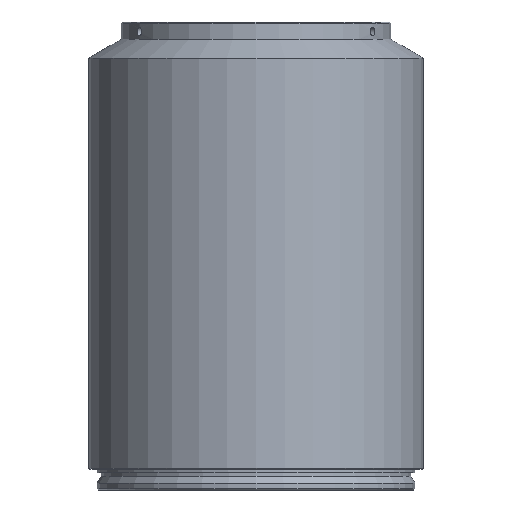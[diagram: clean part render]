
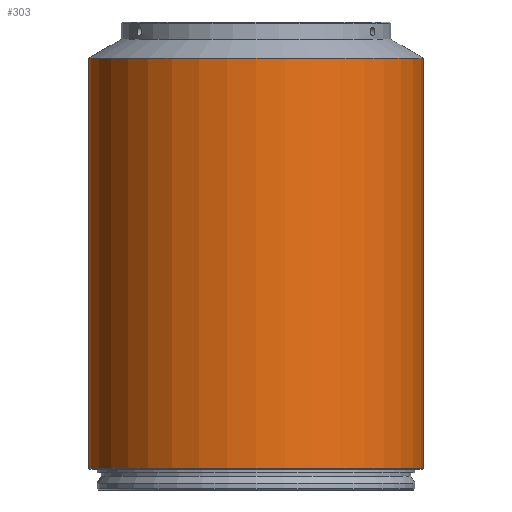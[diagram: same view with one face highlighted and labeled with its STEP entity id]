
A CAD part, front view. The second image highlights one B-rep face of the part: STEP entity #303.
In plain terms, the highlighted cylindrical face has radius 48.5 mm (diameter 97 mm), a partial arc.
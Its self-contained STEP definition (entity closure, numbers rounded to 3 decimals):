
#10 = EDGE_CURVE ( 'NONE', #1048, #993, #373, .T. ) ;
#32 = AXIS2_PLACEMENT_3D ( 'NONE', #310, #747, #1061 ) ;
#61 = CARTESIAN_POINT ( 'NONE',  ( -48.5, 0., 175.49 ) ) ;
#63 = CIRCLE ( 'NONE', #287, 48.5 ) ;
#126 = CARTESIAN_POINT ( 'NONE',  ( -48.5, 0., 179.046 ) ) ;
#165 = DIRECTION ( 'NONE',  ( 1., 0., 0. ) ) ;
#173 = CARTESIAN_POINT ( 'NONE',  ( -48.5, 0., 56.8 ) ) ;
#185 = EDGE_CURVE ( 'NONE', #1048, #609, #1211, .T. ) ;
#287 = AXIS2_PLACEMENT_3D ( 'NONE', #376, #1137, #593 ) ;
#303 = ADVANCED_FACE ( 'NONE', ( #592 ), #492, .T. ) ;
#310 = CARTESIAN_POINT ( 'NONE',  ( 0., 0., 56.8 ) ) ;
#312 = VERTEX_POINT ( 'NONE', #930 ) ;
#368 = DIRECTION ( 'NONE',  ( 0., 0., 1. ) ) ;
#373 = CIRCLE ( 'NONE', #32, 48.5 ) ;
#376 = CARTESIAN_POINT ( 'NONE',  ( 0., 0., 175.49 ) ) ;
#492 = CYLINDRICAL_SURFACE ( 'NONE', #1173, 48.5 ) ;
#542 = ORIENTED_EDGE ( 'NONE', *, *, #10, .T. ) ;
#557 = VECTOR ( 'NONE', #788, 1000. ) ;
#592 = FACE_OUTER_BOUND ( 'NONE', #1017, .T. ) ;
#593 = DIRECTION ( 'NONE',  ( 1., 0., 0. ) ) ;
#609 = VERTEX_POINT ( 'NONE', #61 ) ;
#613 = ORIENTED_EDGE ( 'NONE', *, *, #1335, .F. ) ;
#681 = CARTESIAN_POINT ( 'NONE',  ( 48.5, 0., 179.046 ) ) ;
#747 = DIRECTION ( 'NONE',  ( 0., 0., 1. ) ) ;
#788 = DIRECTION ( 'NONE',  ( 0., 0., 1. ) ) ;
#800 = ORIENTED_EDGE ( 'NONE', *, *, #185, .F. ) ;
#909 = CARTESIAN_POINT ( 'NONE',  ( 48.5, 0., 56.8 ) ) ;
#930 = CARTESIAN_POINT ( 'NONE',  ( 48.5, 0., 175.49 ) ) ;
#993 = VERTEX_POINT ( 'NONE', #909 ) ;
#1017 = EDGE_LOOP ( 'NONE', ( #800, #542, #1139, #613 ) ) ;
#1048 = VERTEX_POINT ( 'NONE', #173 ) ;
#1061 = DIRECTION ( 'NONE',  ( 1., 0., 0. ) ) ;
#1094 = LINE ( 'NONE', #681, #1148 ) ;
#1115 = DIRECTION ( 'NONE',  ( 0., 0., 1. ) ) ;
#1137 = DIRECTION ( 'NONE',  ( 0., 0., 1. ) ) ;
#1139 = ORIENTED_EDGE ( 'NONE', *, *, #1205, .T. ) ;
#1148 = VECTOR ( 'NONE', #1115, 1000. ) ;
#1173 = AXIS2_PLACEMENT_3D ( 'NONE', #1350, #368, #165 ) ;
#1205 = EDGE_CURVE ( 'NONE', #993, #312, #1094, .T. ) ;
#1211 = LINE ( 'NONE', #126, #557 ) ;
#1335 = EDGE_CURVE ( 'NONE', #609, #312, #63, .T. ) ;
#1350 = CARTESIAN_POINT ( 'NONE',  ( 0., 0., 179.046 ) ) ;
